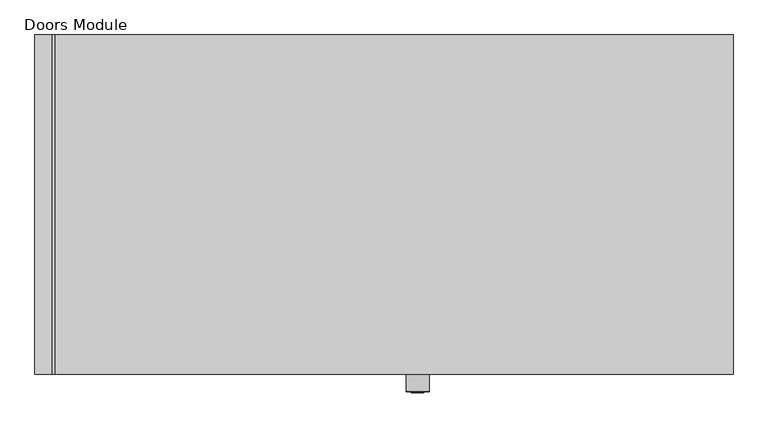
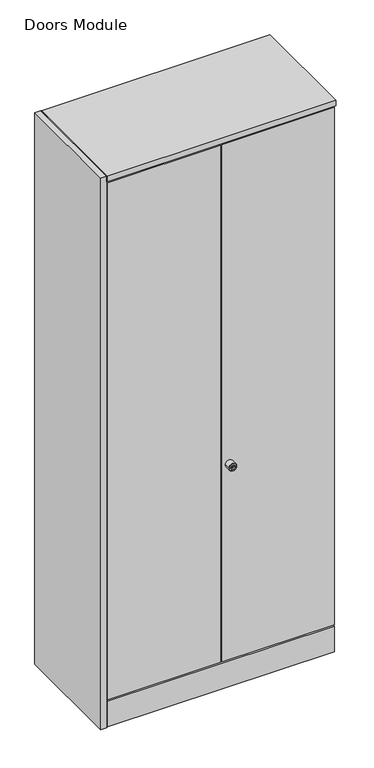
"""IFC4 building model written with IfcOpenShell, lengths in millimetres: furniture geometry, Furniture_Storage_Spacestor_SignatureStoragewall : Doors Module."""

from ifc_helpers import new_model, si_unit, point, frame, origin, origin_with_axes, place, context, project, spatial, polyline, circle_curve, ellipse_curve, trimmed, outline, extrude, source, transform, mapped, element, save
from ifc_brep_helpers import plane_surface, cylinder_surface, revolved_surface, advanced_brep


def doors_module_149b00ae(model_context):
    return source(origin(), model_context, "Body", "SolidModel", [
        extrude(outline(polyline([(0.0, -20.5), (-3.5, -20.5), (-3.5, 479.5), (0.0, 479.5), (0.0, -20.5)])), frame((0.0, 0.0, 2525.0), z_axis=(0.0, 0.0, 1.0), x_axis=(1.0, 0.0, 0.0)), (0.0, 0.0, 1.0), 25.5),
        extrude(outline(polyline([(996.5, 459.0), (3.5, 459.0), (3.5, 477.0), (996.5, 477.0), (996.5, 459.0)])), origin_with_axes(), (0.0, 0.0, 1.0), 2518.0),
        extrude(outline(polyline([(996.5, -18.0), (3.5, -18.0), (3.5, 0.0), (996.5, 0.0), (996.5, -18.0)])), origin_with_axes(), (0.0, 0.0, 1.0), 118.0),
        extrude(outline(polyline([(1000.0, -20.5), (0.0, -20.5), (0.0, 479.5), (1000.0, 479.5), (1000.0, -20.5)])), frame((0.0, 0.0, 2525.0), z_axis=(0.0, 0.0, 1.0), x_axis=(1.0, 0.0, 0.0)), (0.0, 0.0, 1.0), 25.5),
        extrude(outline(polyline([(-29.0, 479.5), (-3.5, 479.5), (-3.5, -20.5), (-29.0, -20.5), (-29.0, 479.5)])), origin_with_axes(), (0.0, 0.0, 1.0), 2550.5),
        extrude(outline(polyline([(0.0, 0.0), (-11.0, 0.0), (-11.0, 459.0), (0.0, 459.0), (0.0, 0.0)])), origin_with_axes(), (0.0, 0.0, 1.0), 2532.5),
        extrude(outline(polyline([(1000.0, 0.0), (989.0, 0.0), (989.0, 459.0), (1000.0, 459.0), (1000.0, 0.0)])), origin_with_axes(), (0.0, 0.0, 1.0), 2532.5),
        extrude(outline(polyline([(11.0, 0.0), (0.0, 0.0), (0.0, 459.0), (11.0, 459.0), (11.0, 0.0)])), origin_with_axes(), (0.0, 0.0, 1.0), 2532.5),
        extrude(outline(polyline([(989.0, 0.0), (11.0, 0.0), (11.0, 459.0), (989.0, 459.0), (989.0, 0.0)])), frame((0.0, 0.0, 2023.0), z_axis=(0.0, 0.0, 1.0), x_axis=(1.0, 0.0, 0.0)), (0.0, 0.0, 1.0), 22.0),
        extrude(outline(polyline([(989.0, 0.0), (11.0, 0.0), (11.0, 459.0), (989.0, 459.0), (989.0, 0.0)])), frame((0.0, 0.0, 1639.0), z_axis=(0.0, 0.0, 1.0), x_axis=(1.0, 0.0, 0.0)), (0.0, 0.0, 1.0), 22.0),
        extrude(outline(polyline([(989.0, 0.0), (11.0, 0.0), (11.0, 459.0), (989.0, 459.0), (989.0, 0.0)])), frame((0.0, 0.0, 1255.0), z_axis=(0.0, 0.0, 1.0), x_axis=(1.0, 0.0, 0.0)), (0.0, 0.0, 1.0), 22.0),
        extrude(outline(polyline([(989.0, 0.0), (11.0, 0.0), (11.0, 459.0), (989.0, 459.0), (989.0, 0.0)])), frame((0.0, 0.0, 871.0), z_axis=(0.0, 0.0, 1.0), x_axis=(1.0, 0.0, 0.0)), (0.0, 0.0, 1.0), 22.0),
        extrude(outline(polyline([(989.0, 0.0), (11.0, 0.0), (11.0, 459.0), (989.0, 459.0), (989.0, 0.0)])), frame((0.0, 0.0, 487.0), z_axis=(0.0, 0.0, 1.0), x_axis=(1.0, 0.0, 0.0)), (0.0, 0.0, 1.0), 22.0),
        advanced_brep(
        [(552.0, -45.3116344, 1032.0), (518.0, -45.3116344, 1032.0), (518.0, -18.0, 1032.0), (552.0, -18.0, 1032.0), (535.0, -18.0, 1032.0), (543.9747319, -46.3150077, 1032.0), (526.0252681, -46.3150077, 1032.0), (519.0033734, -46.3150077, 1032.0), (550.9966266, -46.3150077, 1032.0), (543.9747319, -47.4703043, 1032.0), (526.0252681, -47.4703043, 1032.0), (539.8245152, -47.4703043, 1032.0), (539.8245152, -47.4703043, 1030.6366562), (530.1754848, -47.4703043, 1030.6366562), (530.1754848, -47.4703043, 1032.0), (530.1754848, -47.4703043, 1033.3633438), (539.8245152, -47.4703043, 1033.3633438), (530.1754848, -27.8604291, 1030.6366562), (539.8245152, -27.8604291, 1030.6366562), (539.8245152, -27.8604291, 1033.3633438), (530.1754848, -27.8604291, 1033.3633438)],
        [
            (0, 1, circle_curve(frame((535.0, -45.3116344, 1032.0), z_axis=(0.0, 1.0, 0.0), x_axis=(-1.0, 0.0, 0.0)), 17.0)),
            (1, 2),
            (2, 3, circle_curve(frame((535.0, -18.0, 1032.0), z_axis=(0.0, -1.0, 0.0), x_axis=(-1.0, 0.0, 0.0)), 17.0)),
            (3, 0),
            (1, 0, circle_curve(frame((535.0, -45.3116344, 1032.0), z_axis=(0.0, 1.0, 0.0), x_axis=(-1.0, 0.0, 0.0)), 17.0)),
            (3, 2, circle_curve(frame((535.0, -18.0, 1032.0), z_axis=(0.0, -1.0, 0.0), x_axis=(-1.0, 0.0, 0.0)), 17.0)),
            (2, 4),
            (4, 3),
            (5, 6, circle_curve(frame((535.0, -46.3150077, 1032.0), z_axis=(0.0, 1.0, 0.0), x_axis=(-1.0, 0.0, 0.0)), 8.9747319)),
            (6, 7),
            (7, 8, circle_curve(frame((535.0, -46.3150077, 1032.0), z_axis=(0.0, -1.0, 0.0), x_axis=(-1.0, 0.0, 0.0)), 15.9966266)),
            (8, 5),
            (6, 5, circle_curve(frame((535.0, -46.3150077, 1032.0), z_axis=(0.0, 1.0, 0.0), x_axis=(-1.0, 0.0, 0.0)), 8.9747319)),
            (8, 7, circle_curve(frame((535.0, -46.3150077, 1032.0), z_axis=(0.0, -1.0, 0.0), x_axis=(-1.0, 0.0, 0.0)), 15.9966266)),
            (0, 8, circle_curve(frame((550.9966266, -45.3116344, 1032.0), z_axis=(0.0, 0.0, -1.0), x_axis=(1.0, 0.0, 0.0)), 1.0033734)),
            (7, 1, circle_curve(frame((519.0033734, -45.3116344, 1032.0), z_axis=(0.0, 0.0, -1.0), x_axis=(-1.0, 0.0, 0.0)), 1.0033734)),
            (5, 9),
            (9, 10, circle_curve(frame((535.0, -47.4703043, 1032.0), z_axis=(0.0, 1.0, 0.0), x_axis=(-1.0, 0.0, 0.0)), 8.9747319)),
            (10, 6),
            (10, 9, circle_curve(frame((535.0, -47.4703043, 1032.0), z_axis=(0.0, 1.0, 0.0), x_axis=(-1.0, 0.0, 0.0)), 8.9747319)),
            (9, 11),
            (11, 12),
            (12, 13),
            (13, 14),
            (14, 10),
            (14, 15),
            (15, 16),
            (16, 11),
            (17, 18),
            (18, 19),
            (19, 20),
            (20, 17),
            (17, 13),
            (12, 18),
            (16, 19),
            (15, 20),
        ],
        [
            cylinder_surface(frame((535.0, -2627.0581012, 1032.0), z_axis=(0.0, -1.0, 0.0), x_axis=(-1.0, 0.0, 0.0)), 17.0),
            plane_surface(frame((535.0, -18.0, 1032.0), z_axis=(0.0, 1.0, 0.0), x_axis=(-1.0, 0.0, 0.0))),
            plane_surface(frame((535.0, -46.3150077, 1032.0), z_axis=(0.0, -1.0, 0.0), x_axis=(-1.0, 0.0, 0.0))),
            revolved_surface(trimmed(ellipse_curve(frame((519.0033734, -45.3116344, 1032.0), z_axis=(0.0, 0.0, 1.0), x_axis=(-1.0, 0.0, 0.0)), 1.0033734, 1.0033734), [point((518.0, -45.3116344, 1032.0))], [point((519.0033734, -46.3150077, 1032.0))], True, "CARTESIAN"), (535.0, -2627.0581012, 1032.0), (0.0, -1.0, 0.0)),
            cylinder_surface(frame((535.0, -2627.0581012, 1032.0), z_axis=(0.0, -1.0, 0.0), x_axis=(-1.0, 0.0, 0.0)), 8.9747319),
            plane_surface(frame((535.0, -47.4703043, 1032.0), z_axis=(0.0, -1.0, 0.0), x_axis=(-1.0, 0.0, 0.0))),
            plane_surface(frame((539.4565249, -27.8604291, 1030.6366562), z_axis=(0.0, -1.0, 0.0), x_axis=(-1.0, 0.0, 0.0))),
            plane_surface(frame((530.1754848, -49.2046383, 1030.6366562), z_axis=(0.0, 0.0, 1.0), x_axis=(0.0, 1.0, 0.0))),
            plane_surface(frame((539.8245152, -49.2046383, 1030.6366562), z_axis=(-1.0, 0.0, 0.0), x_axis=(0.0, 1.0, 0.0))),
            plane_surface(frame((539.8245152, -49.2046383, 1033.3633438), z_axis=(0.0, 0.0, -1.0), x_axis=(0.0, 1.0, 0.0))),
            plane_surface(frame((530.1754848, -49.2046383, 1033.3633438), z_axis=(1.0, 0.0, 0.0), x_axis=(0.0, 1.0, 0.0))),
        ],
        [
            (0, [[1, 2, 3, 4]]),
            (0, [[-2, 5, -4, 6]]),
            (1, [[-3, 7, 8]]),
            (1, [[-6, -8, -7]]),
            (2, [[9, 10, 11, 12]]),
            (2, [[-10, 13, -12, 14]]),
            (3, [[-1, 15, -11, 16]]),
            (3, [[-5, -16, -14, -15]]),
            (4, [[-9, 17, 18, 19]]),
            (4, [[-13, -19, 20, -17]]),
            (5, [[-18, 21, 22, 23, 24, 25]]),
            (5, [[-20, -25, 26, 27, 28, -21]]),
            (6, [[29, 30, 31, 32]]),
            (7, [[-29, 33, -23, 34]]),
            (8, [[-30, -34, -22, -28, 35]]),
            (9, [[-31, -35, -27, 36]]),
            (10, [[-32, -36, -26, -24, -33]]),
        ],
    ),
        extrude(outline(polyline([(3.5, -18.0), (3.5, 0.0), (496.5, 0.0), (496.5, -18.0), (3.5, -18.0)])), frame((0.0, 0.0, 125.0), z_axis=(0.0, 0.0, 1.0), x_axis=(1.0, 0.0, 0.0)), (0.0, 0.0, 1.0), 2393.0),
        extrude(outline(polyline([(996.5, -18.0), (503.5, -18.0), (503.5, 0.0), (996.5, 0.0), (996.5, -18.0)])), frame((0.0, 0.0, 125.0), z_axis=(0.0, 0.0, 1.0), x_axis=(1.0, 0.0, 0.0)), (0.0, 0.0, 1.0), 2393.0),
        extrude(outline(polyline([(989.0, 0.0), (11.0, 0.0), (11.0, 459.0), (989.0, 459.0), (989.0, 0.0)])), frame((0.0, 0.0, 110.5), z_axis=(0.0, 0.0, 1.0), x_axis=(1.0, 0.0, 0.0)), (0.0, 0.0, 1.0), 22.0),
        extrude(outline(polyline([(989.0, 0.0), (11.0, 0.0), (11.0, 459.0), (989.0, 459.0), (989.0, 0.0)])), frame((0.0, 0.0, 2510.0), z_axis=(0.0, 0.0, 1.0), x_axis=(1.0, 0.0, 0.0)), (0.0, 0.0, 1.0), 22.0),
    ])


if __name__ == "__main__":
    model = new_model("IFC4")
    model_context = context("Model", 3, world=origin())
    ifc_project = project(units=[si_unit("LENGTHUNIT", "METRE", prefix="MILLI")], contexts=[model_context])
    site = spatial("IfcSite", under=ifc_project)
    building = spatial("IfcBuilding", under=site)
    placement = place(None, origin())
    doors_module_shape = doors_module_149b00ae(model_context)
    element("IfcFurniture", 1, ObjectType="Furniture_Storage_Spacestor_SignatureStoragewall : Doors Module", at=placement, inside=building, context=model_context, shape_type="MappedRepresentation", body=[
        mapped(doors_module_shape, transform((0.0, 0.0, 0.0), x_axis=(1.0, 0.0, 0.0), y_axis=(0.0, 1.0, 0.0), z_axis=(0.0, 0.0, 1.0))),
    ])
    save(model, "model.ifc")
